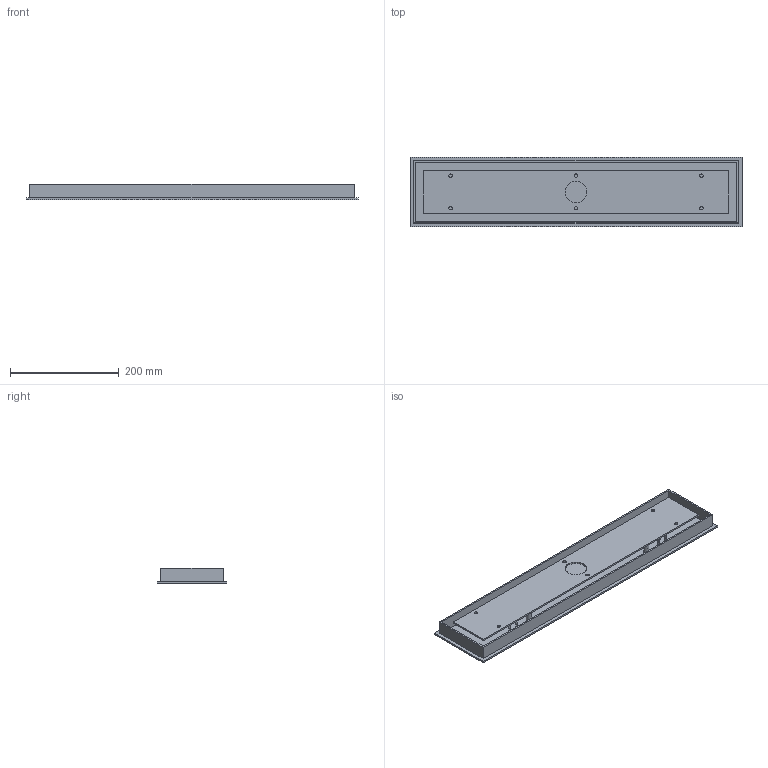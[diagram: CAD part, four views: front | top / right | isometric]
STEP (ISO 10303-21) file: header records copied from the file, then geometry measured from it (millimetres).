
FILE_DESCRIPTION(/* description */ (''),/* implementation_level */ '2;1');
FILE_NAME(/* name */ 'SkLO_Linear_Canopy_2''_MCL02_3D',/* time_stamp */ '2024-10-18T15:53:39+02:00',/* author */ (''),/* organization */ (''),/* preprocessor_version */ 'ST-DEVELOPER v16.5',/* originating_system */ 'Rhino 7.34',/* authorisation */ '');
FILE_SCHEMA (('CONFIG_CONTROL_DESIGN'));
Length unit declared in the file: millimetre
Products named in the file (1): Document
Bounding box: 610 x 127 x 28.3 mm (x, y, z)
Volume: 471409.1 mm3; surface area: 330153.6 mm2
Topology: 2 solids, 10 shells, 181 faces, 463 edges, 304 vertices
Faces by surface type: plane 70, cylinder 67, bspline 44
Full cylindrical faces by diameter (mm): 3 x16, 5.249 x8, 6 x12, 6.2 x10, 10 x4, 40 x1
Entity records: 8198 total; most frequent: CARTESIAN_POINT 5197, ORIENTED_EDGE 890, EDGE_CURVE 449, VERTEX_POINT 290, EDGE_LOOP 229, B_SPLINE_CURVE_WITH_KNOTS 201, ADVANCED_FACE 181, FACE_OUTER_BOUND 181
